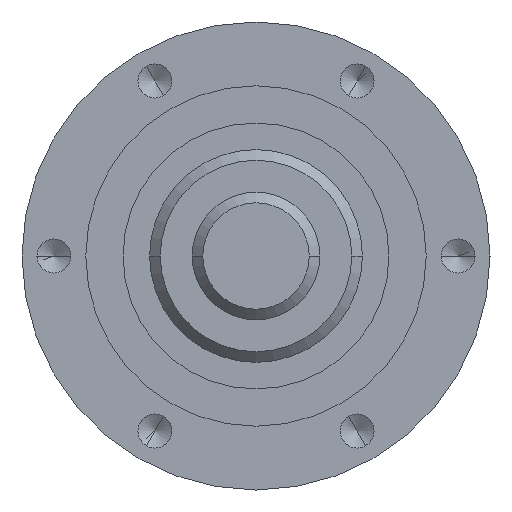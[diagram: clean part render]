
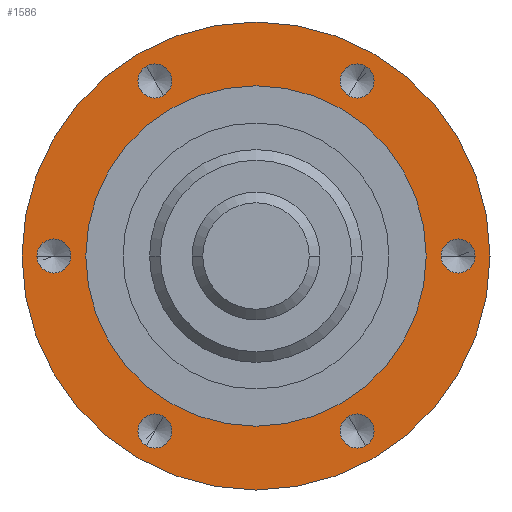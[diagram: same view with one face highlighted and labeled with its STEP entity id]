
A CAD part, left-side view. The second image highlights one B-rep face of the part: STEP entity #1586.
In plain terms, the highlighted planar face has unit normal (-1, 0, 0).
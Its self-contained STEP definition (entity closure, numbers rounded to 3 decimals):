
#327=CARTESIAN_POINT('',(0.,0.,0.));
#328=DIRECTION('',(1.,0.,0.));
#329=DIRECTION('',(0.,1.,0.));
#330=AXIS2_PLACEMENT_3D('',#327,#328,#329);
#335=CARTESIAN_POINT('',(0.,0.,0.));
#336=DIRECTION('',(-1.,0.,0.));
#337=DIRECTION('',(0.,1.,0.));
#338=AXIS2_PLACEMENT_3D('',#335,#336,#337);
#343=CARTESIAN_POINT('',(0.,9.5,0.));
#344=DIRECTION('',(-1.,0.,0.));
#345=DIRECTION('',(0.,1.,0.));
#346=AXIS2_PLACEMENT_3D('',#343,#344,#345);
#351=CARTESIAN_POINT('',(0.,9.5,0.));
#352=DIRECTION('',(-1.,0.,0.));
#353=DIRECTION('',(0.,-1.,0.));
#354=AXIS2_PLACEMENT_3D('',#351,#352,#353);
#359=CARTESIAN_POINT('',(0.,4.75,8.227));
#360=DIRECTION('',(-1.,0.,0.));
#361=DIRECTION('',(0.,0.5,0.866));
#362=AXIS2_PLACEMENT_3D('',#359,#360,#361);
#367=CARTESIAN_POINT('',(0.,4.75,8.227));
#368=DIRECTION('',(-1.,0.,0.));
#369=DIRECTION('',(0.,-0.5,-0.866));
#370=AXIS2_PLACEMENT_3D('',#367,#368,#369);
#375=CARTESIAN_POINT('',(0.,-4.75,8.227));
#376=DIRECTION('',(-1.,0.,0.));
#377=DIRECTION('',(0.,-0.5,0.866));
#378=AXIS2_PLACEMENT_3D('',#375,#376,#377);
#383=CARTESIAN_POINT('',(0.,-4.75,8.227));
#384=DIRECTION('',(-1.,0.,0.));
#385=DIRECTION('',(0.,0.5,-0.866));
#386=AXIS2_PLACEMENT_3D('',#383,#384,#385);
#391=CARTESIAN_POINT('',(0.,-9.5,0.));
#392=DIRECTION('',(-1.,0.,0.));
#393=DIRECTION('',(0.,-1.,0.));
#394=AXIS2_PLACEMENT_3D('',#391,#392,#393);
#399=CARTESIAN_POINT('',(0.,-9.5,0.));
#400=DIRECTION('',(-1.,0.,0.));
#401=DIRECTION('',(0.,1.,0.));
#402=AXIS2_PLACEMENT_3D('',#399,#400,#401);
#407=CARTESIAN_POINT('',(0.,-4.75,-8.227));
#408=DIRECTION('',(-1.,0.,0.));
#409=DIRECTION('',(0.,-0.5,-0.866));
#410=AXIS2_PLACEMENT_3D('',#407,#408,#409);
#415=CARTESIAN_POINT('',(0.,-4.75,-8.227));
#416=DIRECTION('',(-1.,0.,0.));
#417=DIRECTION('',(0.,0.5,0.866));
#418=AXIS2_PLACEMENT_3D('',#415,#416,#417);
#423=CARTESIAN_POINT('',(0.,4.75,-8.227));
#424=DIRECTION('',(-1.,0.,0.));
#425=DIRECTION('',(0.,0.5,-0.866));
#426=AXIS2_PLACEMENT_3D('',#423,#424,#425);
#431=CARTESIAN_POINT('',(0.,4.75,-8.227));
#432=DIRECTION('',(-1.,0.,0.));
#433=DIRECTION('',(0.,-0.5,0.866));
#434=AXIS2_PLACEMENT_3D('',#431,#432,#433);
#453=CARTESIAN_POINT('',(0.,0.,0.));
#454=DIRECTION('',(-1.,0.,0.));
#455=DIRECTION('',(0.,1.,0.));
#456=AXIS2_PLACEMENT_3D('',#453,#454,#455);
#461=CARTESIAN_POINT('',(0.,0.,0.));
#462=DIRECTION('',(1.,0.,0.));
#463=DIRECTION('',(0.,1.,0.));
#464=AXIS2_PLACEMENT_3D('',#461,#462,#463);
#1133=CARTESIAN_POINT('',(0.,11.,0.));
#1134=VERTEX_POINT('',#1133);
#1135=CARTESIAN_POINT('',(0.,8.,0.));
#1137=VERTEX_POINT('',#1135);
#1157=CARTESIAN_POINT('',(0.,-11.,0.));
#1158=VERTEX_POINT('',#1157);
#1159=CARTESIAN_POINT('',(0.,-8.,0.));
#1161=VERTEX_POINT('',#1159);
#1229=CARTESIAN_POINT('',(0.,10.3,0.));
#1230=CARTESIAN_POINT('',(0.,8.7,0.));
#1231=VERTEX_POINT('',#1229);
#1232=VERTEX_POINT('',#1230);
#1239=CARTESIAN_POINT('',(0.,5.15,8.92));
#1240=CARTESIAN_POINT('',(0.,4.35,7.534));
#1241=VERTEX_POINT('',#1239);
#1242=VERTEX_POINT('',#1240);
#1249=CARTESIAN_POINT('',(0.,-5.15,8.92));
#1250=CARTESIAN_POINT('',(0.,-4.35,7.534));
#1251=VERTEX_POINT('',#1249);
#1252=VERTEX_POINT('',#1250);
#1259=CARTESIAN_POINT('',(0.,-10.3,0.));
#1260=CARTESIAN_POINT('',(0.,-8.7,0.));
#1261=VERTEX_POINT('',#1259);
#1262=VERTEX_POINT('',#1260);
#1269=CARTESIAN_POINT('',(0.,-5.15,-8.92));
#1270=CARTESIAN_POINT('',(0.,-4.35,-7.534));
#1271=VERTEX_POINT('',#1269);
#1272=VERTEX_POINT('',#1270);
#1279=CARTESIAN_POINT('',(0.,5.15,-8.92));
#1280=CARTESIAN_POINT('',(0.,4.35,-7.534));
#1281=VERTEX_POINT('',#1279);
#1282=VERTEX_POINT('',#1280);
#1535=CARTESIAN_POINT('',(0.,0.,0.));
#1536=DIRECTION('',(1.,0.,0.));
#1537=DIRECTION('',(0.,-1.,0.));
#1538=AXIS2_PLACEMENT_3D('',#1535,#1536,#1537);
#1539=PLANE('',#1538);
#1540=ORIENTED_EDGE('',*,*,#1530,.T.);
#1541=ORIENTED_EDGE('',*,*,#1514,.F.);
#1542=EDGE_LOOP('',(#1540,#1541));
#1543=FACE_OUTER_BOUND('',#1542,.F.);
#1545=ORIENTED_EDGE('',*,*,#1544,.T.);
#1547=ORIENTED_EDGE('',*,*,#1546,.F.);
#1548=EDGE_LOOP('',(#1545,#1547));
#1549=FACE_BOUND('',#1548,.F.);
#1551=ORIENTED_EDGE('',*,*,#1550,.T.);
#1553=ORIENTED_EDGE('',*,*,#1552,.T.);
#1554=EDGE_LOOP('',(#1551,#1553));
#1555=FACE_BOUND('',#1554,.F.);
#1557=ORIENTED_EDGE('',*,*,#1556,.T.);
#1559=ORIENTED_EDGE('',*,*,#1558,.T.);
#1560=EDGE_LOOP('',(#1557,#1559));
#1561=FACE_BOUND('',#1560,.F.);
#1563=ORIENTED_EDGE('',*,*,#1562,.T.);
#1565=ORIENTED_EDGE('',*,*,#1564,.T.);
#1566=EDGE_LOOP('',(#1563,#1565));
#1567=FACE_BOUND('',#1566,.F.);
#1569=ORIENTED_EDGE('',*,*,#1568,.T.);
#1571=ORIENTED_EDGE('',*,*,#1570,.T.);
#1572=EDGE_LOOP('',(#1569,#1571));
#1573=FACE_BOUND('',#1572,.F.);
#1575=ORIENTED_EDGE('',*,*,#1574,.T.);
#1577=ORIENTED_EDGE('',*,*,#1576,.T.);
#1578=EDGE_LOOP('',(#1575,#1577));
#1579=FACE_BOUND('',#1578,.F.);
#1581=ORIENTED_EDGE('',*,*,#1580,.T.);
#1583=ORIENTED_EDGE('',*,*,#1582,.T.);
#1584=EDGE_LOOP('',(#1581,#1583));
#1585=FACE_BOUND('',#1584,.F.);
#1586=ADVANCED_FACE('',(#1543,#1549,#1555,#1561,#1567,#1573,#1579,#1585),#1539,
.F.);
#331=CIRCLE('',#330,11.);
#339=CIRCLE('',#338,11.);
#347=CIRCLE('',#346,0.8);
#355=CIRCLE('',#354,0.8);
#363=CIRCLE('',#362,0.8);
#371=CIRCLE('',#370,0.8);
#379=CIRCLE('',#378,0.8);
#387=CIRCLE('',#386,0.8);
#395=CIRCLE('',#394,0.8);
#403=CIRCLE('',#402,0.8);
#411=CIRCLE('',#410,0.8);
#419=CIRCLE('',#418,0.8);
#427=CIRCLE('',#426,0.8);
#435=CIRCLE('',#434,0.8);
#457=CIRCLE('',#456,8.);
#465=CIRCLE('',#464,8.);
#1514=EDGE_CURVE('',#1134,#1158,#339,.T.);
#1530=EDGE_CURVE('',#1134,#1158,#331,.T.);
#1544=EDGE_CURVE('',#1137,#1161,#457,.T.);
#1546=EDGE_CURVE('',#1137,#1161,#465,.T.);
#1550=EDGE_CURVE('',#1231,#1232,#347,.T.);
#1552=EDGE_CURVE('',#1232,#1231,#355,.T.);
#1556=EDGE_CURVE('',#1241,#1242,#363,.T.);
#1558=EDGE_CURVE('',#1242,#1241,#371,.T.);
#1562=EDGE_CURVE('',#1251,#1252,#379,.T.);
#1564=EDGE_CURVE('',#1252,#1251,#387,.T.);
#1568=EDGE_CURVE('',#1261,#1262,#395,.T.);
#1570=EDGE_CURVE('',#1262,#1261,#403,.T.);
#1574=EDGE_CURVE('',#1271,#1272,#411,.T.);
#1576=EDGE_CURVE('',#1272,#1271,#419,.T.);
#1580=EDGE_CURVE('',#1281,#1282,#427,.T.);
#1582=EDGE_CURVE('',#1282,#1281,#435,.T.);
